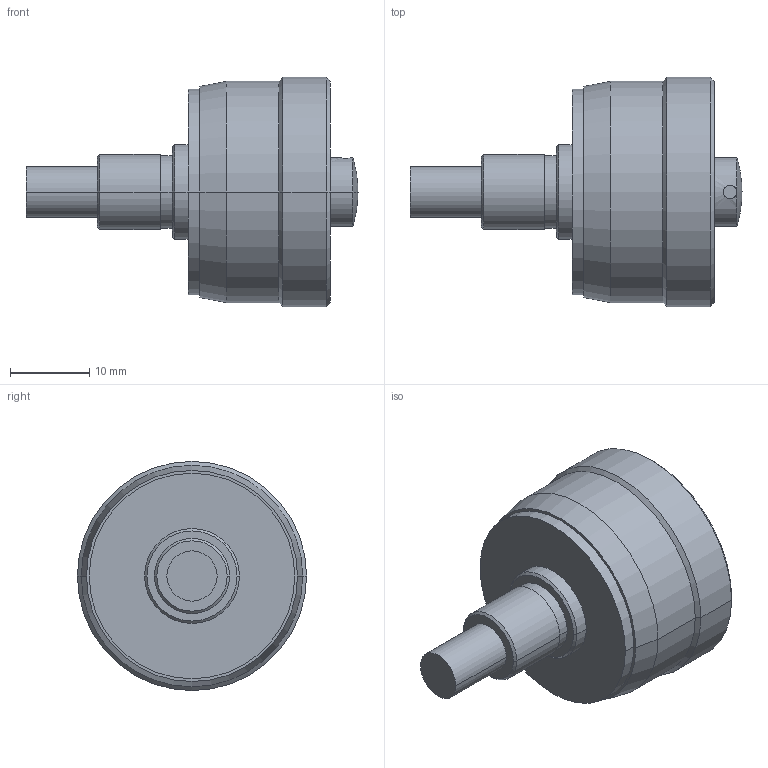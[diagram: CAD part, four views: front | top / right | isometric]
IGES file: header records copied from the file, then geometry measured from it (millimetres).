
Start section: Elysium IGES Interface
Global section: file name: 70HR:\01_商品設計部\01_MK外ﾃｰﾏ(U)\15_MH_3D\IGESﾌｧｲﾙ\148-305_MHC1-6.5G.igs; native system: Creo Elements/Direct Modeling 18.1B  29-Sep-2012; preprocessor: Creo Element/Direct IGES_3D V2.2; author: Unknown; organization: Unknown; date: 20140623.171936; units: millimetre
Bounding box: 42 x 29 x 29 mm (x, y, z)
Volume: 12509.7 mm3; surface area: 3428.1 mm2
Topology: 1 solids, 1 shells, 38 faces, 76 edges, 45 vertices
Faces by surface type: bspline 38
